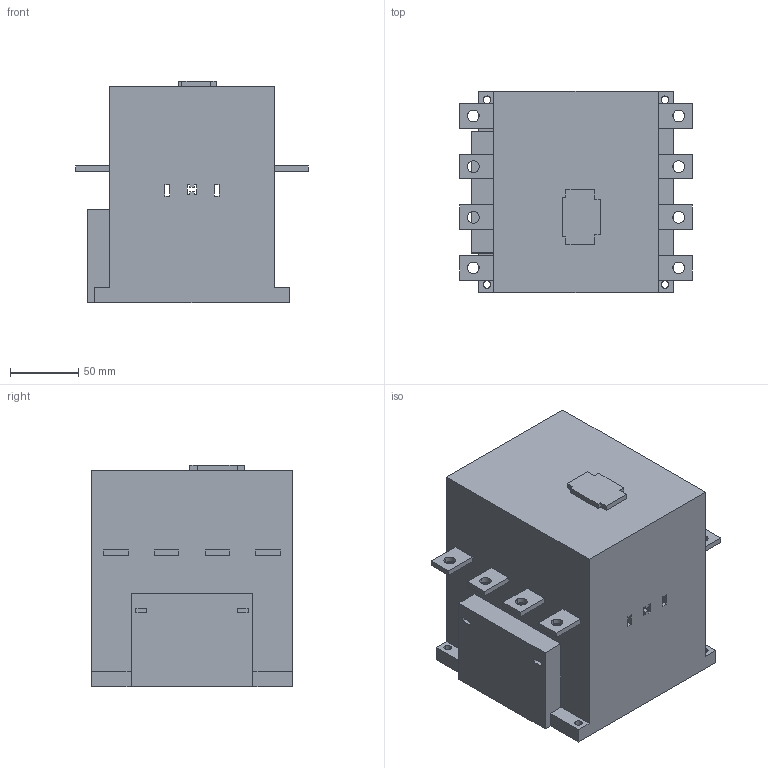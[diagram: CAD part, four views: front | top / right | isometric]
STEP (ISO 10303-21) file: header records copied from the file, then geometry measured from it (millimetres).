
FILE_DESCRIPTION((''),'2;1');
FILE_NAME('K3-116_151_176A00-40.stp','2009-06-30T11:12:22',(''),(''),'Mechanical Desktop 2008','Mechanical Desktop 2008',', , ');
FILE_SCHEMA(('CONFIG_CONTROL_DESIGN'));
Length unit declared in the file: millimetre
Products named in the file (2): K3-116_151_176A00-40A; K3-116_151_176A00-40
Assembly tree (1 placements, depth 2):
  K3-116_151_176A00-40A
    K3-116_151_176A00-40
Bounding box: 170 x 147 x 161.9 mm (x, y, z)
Volume: 2912176.8 mm3; surface area: 152199.5 mm2
Topology: 1 solids, 1 shells, 123 faces, 330 edges, 220 vertices
Faces by surface type: plane 99, cylinder 24
Entity records: 3981 total; most frequent: CARTESIAN_POINT 675, ORIENTED_EDGE 660, DIRECTION 628, EDGE_CURVE 330, VECTOR 282, LINE 282, VERTEX_POINT 220, AXIS2_PLACEMENT_3D 173
